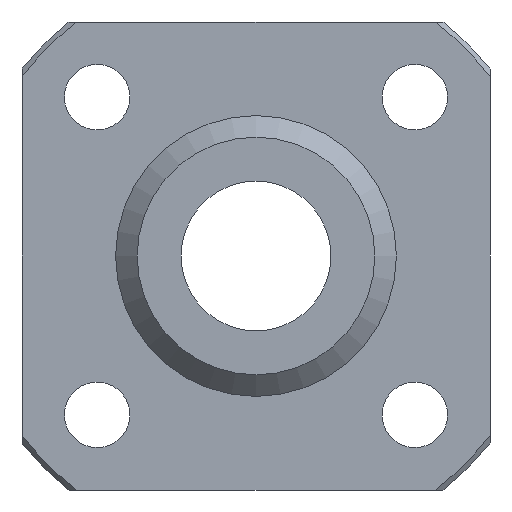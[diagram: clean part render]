
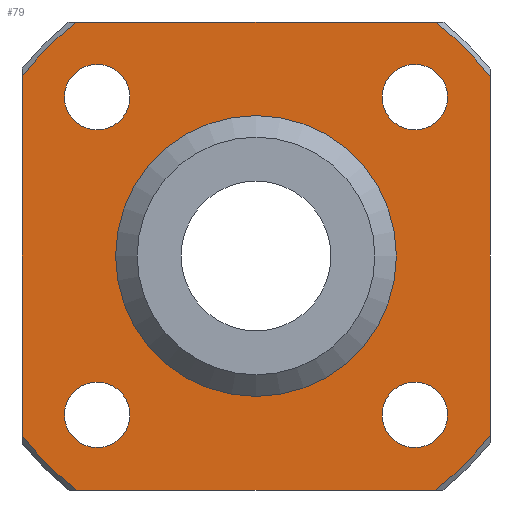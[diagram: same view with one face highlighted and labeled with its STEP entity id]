
A CAD part, left-side view. The second image highlights one B-rep face of the part: STEP entity #79.
In plain terms, the highlighted planar face has unit normal (-1, 0, 0).
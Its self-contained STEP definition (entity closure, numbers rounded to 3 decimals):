
#79=ADVANCED_FACE('',(#124,#125,#126,#127,#128,#129),#130,.T.);
#124=FACE_OUTER_BOUND('',#218,.T.);
#125=FACE_BOUND('',#219,.T.);
#126=FACE_BOUND('',#220,.T.);
#127=FACE_BOUND('',#221,.T.);
#128=FACE_BOUND('',#222,.T.);
#129=FACE_BOUND('',#223,.T.);
#130=PLANE('',#224);
#218=EDGE_LOOP('',(#337,#338,#339,#340,#341,#342,#343,#344));
#219=EDGE_LOOP('',(#345));
#220=EDGE_LOOP('',(#346));
#221=EDGE_LOOP('',(#347));
#222=EDGE_LOOP('',(#348));
#223=EDGE_LOOP('',(#349));
#224=AXIS2_PLACEMENT_3D('',#350,#351,#352);
#337=ORIENTED_EDGE('',*,*,#560,.T.);
#338=ORIENTED_EDGE('',*,*,#539,.T.);
#339=ORIENTED_EDGE('',*,*,#562,.T.);
#340=ORIENTED_EDGE('',*,*,#563,.T.);
#341=ORIENTED_EDGE('',*,*,#564,.T.);
#342=ORIENTED_EDGE('',*,*,#565,.T.);
#343=ORIENTED_EDGE('',*,*,#566,.T.);
#344=ORIENTED_EDGE('',*,*,#567,.T.);
#345=ORIENTED_EDGE('',*,*,#568,.F.);
#346=ORIENTED_EDGE('',*,*,#569,.F.);
#347=ORIENTED_EDGE('',*,*,#570,.F.);
#348=ORIENTED_EDGE('',*,*,#571,.F.);
#349=ORIENTED_EDGE('',*,*,#572,.F.);
#350=CARTESIAN_POINT('',(-8.0,7.5,0.0));
#351=DIRECTION('',(-1.0,0.0,0.0));
#352=DIRECTION('',(0.0,0.0,1.0));
#539=EDGE_CURVE('',#610,#607,#611,.T.);
#560=EDGE_CURVE('',#650,#610,#651,.T.);
#562=EDGE_CURVE('',#607,#653,#654,.T.);
#563=EDGE_CURVE('',#653,#655,#656,.T.);
#564=EDGE_CURVE('',#655,#657,#658,.T.);
#565=EDGE_CURVE('',#657,#659,#660,.T.);
#566=EDGE_CURVE('',#659,#661,#662,.T.);
#567=EDGE_CURVE('',#661,#650,#663,.T.);
#568=EDGE_CURVE('',#664,#664,#665,.T.);
#569=EDGE_CURVE('',#666,#666,#667,.T.);
#570=EDGE_CURVE('',#668,#668,#669,.T.);
#571=EDGE_CURVE('',#670,#670,#671,.T.);
#572=EDGE_CURVE('',#672,#672,#673,.T.);
#607=VERTEX_POINT('',#729);
#610=VERTEX_POINT('',#735);
#611=LINE('',#736,#737);
#650=VERTEX_POINT('',#791);
#651=CIRCLE('',#792,15.746);
#653=VERTEX_POINT('',#797);
#654=CIRCLE('',#798,15.746);
#655=VERTEX_POINT('',#799);
#656=LINE('',#800,#801);
#657=VERTEX_POINT('',#802);
#658=CIRCLE('',#803,15.746);
#659=VERTEX_POINT('',#804);
#660=LINE('',#805,#806);
#661=VERTEX_POINT('',#807);
#662=CIRCLE('',#808,15.746);
#663=LINE('',#809,#810);
#664=VERTEX_POINT('',#811);
#665=CIRCLE('',#812,1.75);
#666=VERTEX_POINT('',#813);
#667=CIRCLE('',#814,1.75);
#668=VERTEX_POINT('',#815);
#669=CIRCLE('',#816,1.75);
#670=VERTEX_POINT('',#817);
#671=CIRCLE('',#818,1.75);
#672=VERTEX_POINT('',#819);
#673=CIRCLE('',#820,7.5);
#729=CARTESIAN_POINT('',(-8.0,-12.5,9.575));
#735=CARTESIAN_POINT('',(-8.0,-12.5,-9.575));
#736=CARTESIAN_POINT('',(-8.0,-12.5,0.0));
#737=VECTOR('',#915,1.0);
#791=CARTESIAN_POINT('',(-8.0,-9.575,-12.5));
#792=AXIS2_PLACEMENT_3D('',#955,#956,#957);
#797=CARTESIAN_POINT('',(-8.0,-9.575,12.5));
#798=AXIS2_PLACEMENT_3D('',#958,#959,#960);
#799=CARTESIAN_POINT('',(-8.0,9.575,12.5));
#800=CARTESIAN_POINT('',(-8.0,7.5,12.5));
#801=VECTOR('',#961,1.0);
#802=CARTESIAN_POINT('',(-8.0,12.5,9.575));
#803=AXIS2_PLACEMENT_3D('',#962,#963,#964);
#804=CARTESIAN_POINT('',(-8.0,12.5,-9.575));
#805=CARTESIAN_POINT('',(-8.0,12.5,0.0));
#806=VECTOR('',#965,1.0);
#807=CARTESIAN_POINT('',(-8.0,9.575,-12.5));
#808=AXIS2_PLACEMENT_3D('',#966,#967,#968);
#809=CARTESIAN_POINT('',(-8.0,7.5,-12.5));
#810=VECTOR('',#969,1.0);
#811=CARTESIAN_POINT('',(-8.0,8.485,10.235));
#812=AXIS2_PLACEMENT_3D('',#970,#971,#972);
#813=CARTESIAN_POINT('',(-8.0,-8.485,10.235));
#814=AXIS2_PLACEMENT_3D('',#973,#974,#975);
#815=CARTESIAN_POINT('',(-8.0,-8.485,-6.735));
#816=AXIS2_PLACEMENT_3D('',#976,#977,#978);
#817=CARTESIAN_POINT('',(-8.0,8.485,-6.735));
#818=AXIS2_PLACEMENT_3D('',#979,#980,#981);
#819=CARTESIAN_POINT('',(-8.0,0.0,-7.5));
#820=AXIS2_PLACEMENT_3D('',#982,#983,#984);
#915=DIRECTION('',(0.0,0.0,1.0));
#955=CARTESIAN_POINT('',(-8.0,0.0,0.0));
#956=DIRECTION('',(-1.0,0.0,0.0));
#957=DIRECTION('',(0.0,0.0,1.0));
#958=CARTESIAN_POINT('',(-8.0,0.0,0.0));
#959=DIRECTION('',(-1.0,0.0,0.0));
#960=DIRECTION('',(0.0,0.0,1.0));
#961=DIRECTION('',(0.0,1.0,0.0));
#962=CARTESIAN_POINT('',(-8.0,0.0,0.0));
#963=DIRECTION('',(-1.0,0.0,0.0));
#964=DIRECTION('',(0.0,0.0,1.0));
#965=DIRECTION('',(0.0,0.0,-1.0));
#966=CARTESIAN_POINT('',(-8.0,0.0,0.0));
#967=DIRECTION('',(-1.0,0.0,0.0));
#968=DIRECTION('',(0.0,0.0,1.0));
#969=DIRECTION('',(0.0,-1.0,0.0));
#970=CARTESIAN_POINT('',(-8.0,8.485,8.485));
#971=DIRECTION('',(-1.0,0.0,0.0));
#972=DIRECTION('',(0.0,0.0,1.0));
#973=CARTESIAN_POINT('',(-8.0,-8.485,8.485));
#974=DIRECTION('',(-1.0,0.0,0.0));
#975=DIRECTION('',(0.0,0.0,1.0));
#976=CARTESIAN_POINT('',(-8.0,-8.485,-8.485));
#977=DIRECTION('',(-1.0,0.0,0.0));
#978=DIRECTION('',(0.0,0.0,1.0));
#979=CARTESIAN_POINT('',(-8.0,8.485,-8.485));
#980=DIRECTION('',(-1.0,0.0,0.0));
#981=DIRECTION('',(0.0,0.0,1.0));
#982=CARTESIAN_POINT('',(-8.0,0.0,0.0));
#983=DIRECTION('',(-1.0,0.0,0.0));
#984=DIRECTION('',(0.0,0.0,-1.0));
